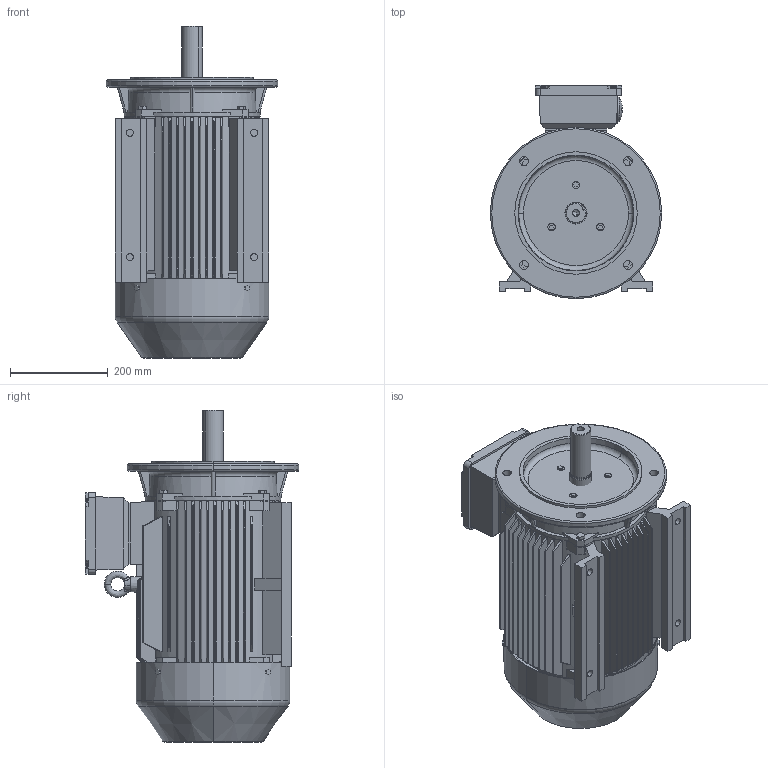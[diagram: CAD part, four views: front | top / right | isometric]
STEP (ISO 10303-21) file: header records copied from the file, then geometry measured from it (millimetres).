
FILE_DESCRIPTION (( 'STEP AP203' ), '1' );
FILE_NAME ('TE3-160L B35上.STEP', '2019-12-18T02:48:30', ( '微软用户' ), ( '微软中国' ), 'SwSTEP 2.0', 'SolidWorks 2012', '' );
FILE_SCHEMA (( 'CONFIG_CONTROL_DESIGN' ));
Products named in the file (11): TE3-160L B35奻; eyebolts gb_GB_FASTENER_SCREWS_FRS M12-N; hexagon head bolts--product grade c gb_GB_FASTENER_BOLT_HHBC M8X40-N; 5EJ.354.484GX160~180P24諉盄碟; hexagon head bolts-full thread gb_GB_FASTENER_BOLT_STBAB A M6X12-N; 8EJ.353.10053GX160~180P24諉盄碟裔; 8EJ.354.593Y2-160~180P24諉盄碟釱; TE3-160 粣扥; YX3-160瑞欶; TE3-160 B35,B5芧埽傷裔; YX3-160L儂釱 B3奻
Assembly tree (13 placements, depth 3):
  TE3-160L B35奻
    YX3-160L儂釱 B3奻
    TE3-160 B35,B5芧埽傷裔
    YX3-160瑞欶
    TE3-160 粣扥
    5EJ.354.484GX160~180P24諉盄碟
      8EJ.354.593Y2-160~180P24諉盄碟釱
      8EJ.353.10053GX160~180P24諉盄碟裔
      hexagon head bolts-full thread gb_GB_FASTENER_BOLT_STBAB A M6X12-N  x4
    hexagon head bolts--product grade c gb_GB_FASTENER_BOLT_HHBC M8X40-N
    eyebolts gb_GB_FASTENER_SCREWS_FRS M12-N
Bounding box: 350 x 436 x 678 mm (x, y, z)
Volume: 30134757.8 mm3; surface area: 2089408.1 mm2
Topology: 12 solids, 15 shells, 1680 faces, 4209 edges, 2789 vertices
Faces by surface type: plane 1240, cylinder 224, cone 96, bspline 87, torus 31, sphere 2
Entity records: 116456 total; most frequent: CARTESIAN_POINT 77775, ORIENTED_EDGE 8006, DIRECTION 6941, EDGE_CURVE 4003, LINE 2877, VECTOR 2877, VERTEX_POINT 2663, AXIS2_PLACEMENT_3D 2032
